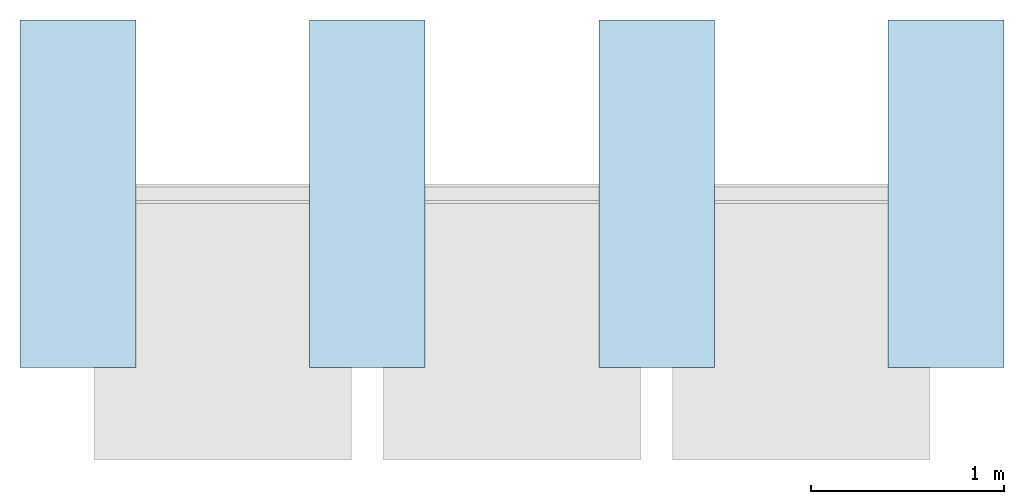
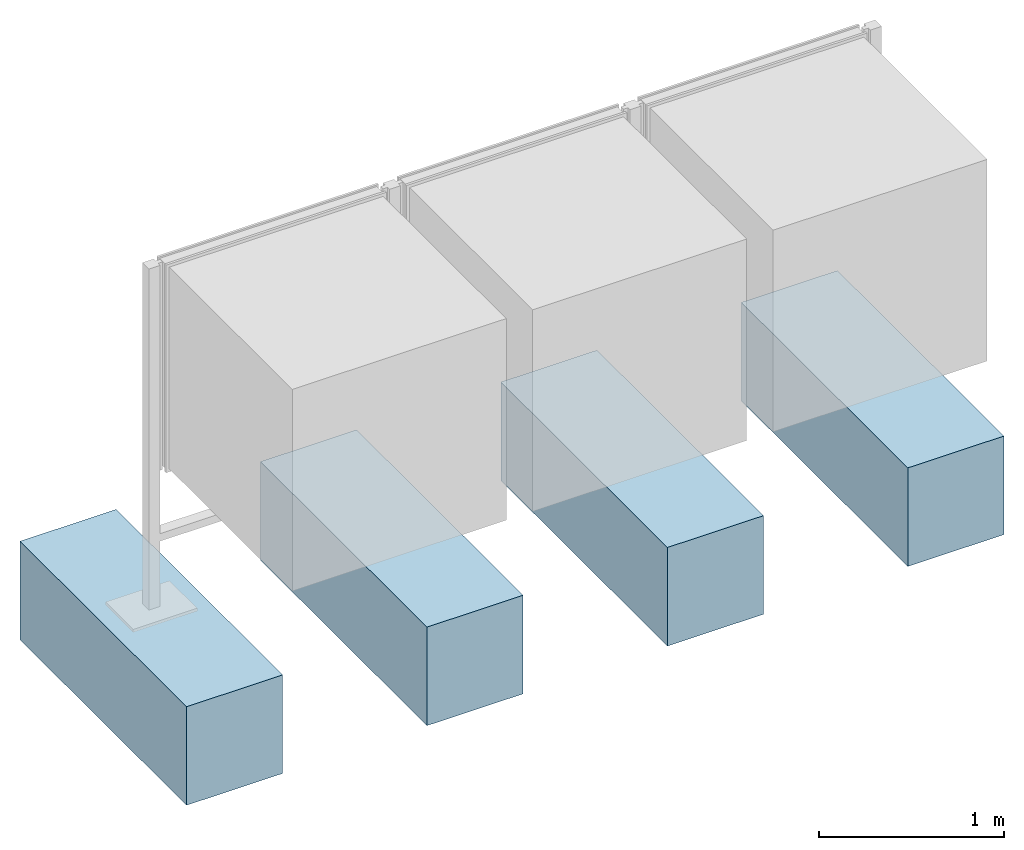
# One storey, incomplete: 4 slabs.
"""IFC4 building model written with IfcOpenShell, lengths in metres."""

from ifc_helpers import new_model, entity, si_unit, converted_unit, direction, frame, frame_2d, origin, origin_2d_with_axis, place, context, subcontext, project, spatial, rectangle, extrude, material, type_object, element, save


model = new_model("IFC4")

# Units and contexts
model_context = context("Model", 3, precision=1e-05, world=origin(), true_north=direction((6.123031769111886e-17, 1.0)))
body_context = subcontext(model_context, "Body", "Model", "MODEL_VIEW")
ifc_project = project(units=[si_unit("LENGTHUNIT", "METRE"), converted_unit("PLANEANGLEUNIT", "DEGREE", entity("IfcPlaneAngleMeasure", 0.017453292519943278), si_unit("PLANEANGLEUNIT", "RADIAN"), dimensions=[0, 0, 0, 0, 0, 0, 0]), si_unit("AREAUNIT", "SQUARE_METRE")], contexts=[model_context])

# Site, building, storey
site_placement = place(None, origin())
site = spatial("IfcSite", under=ifc_project, at=site_placement, Name="Default", CompositionType="ELEMENT")
building_placement = place(site_placement, origin())
building = spatial("IfcBuilding", under=site, at=building_placement, CompositionType="ELEMENT")
storey_placement = place(building_placement, origin())
storey = spatial("IfcBuildingStorey", under=building, at=storey_placement, Name="DB_Bezugshoehe_max_Bahnsteigkante", CompositionType="ELEMENT", Elevation=0.0)

# Slabs
ifc_material = material(Name="DB_Ortbeton", Category="DB_Beton")
slab_type = type_object("IfcSlabType", Name="DB_Vitrine_Fundament:DB_Vitrine_Fundament", PredefinedType="BASESLAB", material=ifc_material)
slab_1_placement = place(storey_placement, origin())
element("IfcSlab", 1, at=slab_1_placement, inside=storey, type_object=slab_type, Name="DB_Vitrine_Fundament:DB_Vitrine_Fundament", ObjectType="DB_Vitrine_Fundament:DB_Vitrine_Fundament", PredefinedType="BASESLAB", context=body_context, shape_type="SweptSolid", body=[
    extrude(rectangle(XDim=1.8, YDim=0.5999999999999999, at=origin_2d_with_axis()), frame((0.0, 0.0, 0.04999999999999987), z_axis=(0.0, 0.0, 1.0), x_axis=(0.0, 1.0, 0.0)), (0.0, 0.0, 1.0), 0.5999999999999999),
    extrude(rectangle(XDim=0.5999999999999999, YDim=1.7999999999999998, at=origin_2d_with_axis()), frame((0.0, 0.0, 0.0), z_axis=(0.0, 0.0, 1.0), x_axis=(-1.0, 0.0, 0.0)), (0.0, 0.0, 1.0), 0.04999999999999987),
])
slab_2_placement = place(storey_placement, origin())
element("IfcSlab", 2, at=slab_2_placement, inside=storey, type_object=slab_type, Name="DB_Vitrine_Fundament:DB_Vitrine_Fundament", ObjectType="DB_Vitrine_Fundament:DB_Vitrine_Fundament", PredefinedType="BASESLAB", context=body_context, shape_type="SweptSolid", body=[
    extrude(rectangle(XDim=1.8, YDim=0.5999999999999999, at=frame_2d((0.0, -8.326672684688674e-17), x_axis=(1.0, 0.0))), frame((1.5000000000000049, 0.0, 0.04999999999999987), z_axis=(0.0, 0.0, 1.0), x_axis=(0.0, 1.0, 0.0)), (0.0, 0.0, 1.0), 0.5999999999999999),
    extrude(rectangle(XDim=0.6000000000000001, YDim=1.7999999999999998, at=origin_2d_with_axis()), frame((1.5000000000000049, 0.0, 0.0), z_axis=(0.0, 0.0, 1.0), x_axis=(-1.0, 0.0, 0.0)), (0.0, 0.0, 1.0), 0.04999999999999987),
])
slab_3_placement = place(storey_placement, origin())
element("IfcSlab", 3, at=slab_3_placement, inside=storey, type_object=slab_type, Name="DB_Vitrine_Fundament:DB_Vitrine_Fundament", ObjectType="DB_Vitrine_Fundament:DB_Vitrine_Fundament", PredefinedType="BASESLAB", context=body_context, shape_type="SweptSolid", body=[
    extrude(rectangle(XDim=1.8, YDim=0.6000000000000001, at=origin_2d_with_axis()), frame((3.0, 0.0, 0.04999999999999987), z_axis=(0.0, 0.0, 1.0), x_axis=(0.0, 1.0, 0.0)), (0.0, 0.0, 1.0), 0.5999999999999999),
    extrude(rectangle(XDim=0.6000000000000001, YDim=1.7999999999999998, at=origin_2d_with_axis()), frame((3.0, 0.0, 0.0), z_axis=(0.0, 0.0, 1.0), x_axis=(-1.0, 0.0, 0.0)), (0.0, 0.0, 1.0), 0.04999999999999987),
])
slab_4_placement = place(storey_placement, origin())
element("IfcSlab", 4, at=slab_4_placement, inside=storey, type_object=slab_type, Name="DB_Vitrine_Fundament:DB_Vitrine_Fundament", ObjectType="DB_Vitrine_Fundament:DB_Vitrine_Fundament", PredefinedType="BASESLAB", context=body_context, shape_type="SweptSolid", body=[
    extrude(rectangle(XDim=1.8, YDim=0.6000000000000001, at=origin_2d_with_axis()), frame((4.500000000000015, 0.0, 0.04999999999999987), z_axis=(0.0, 0.0, 1.0), x_axis=(0.0, 1.0, 0.0)), (0.0, 0.0, 1.0), 0.5999999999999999),
    extrude(rectangle(XDim=0.6000000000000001, YDim=1.7999999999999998, at=origin_2d_with_axis()), frame((4.500000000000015, 0.0, 0.0), z_axis=(0.0, 0.0, 1.0), x_axis=(-1.0, 0.0, 0.0)), (0.0, 0.0, 1.0), 0.04999999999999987),
])

save(model, "model.ifc")
